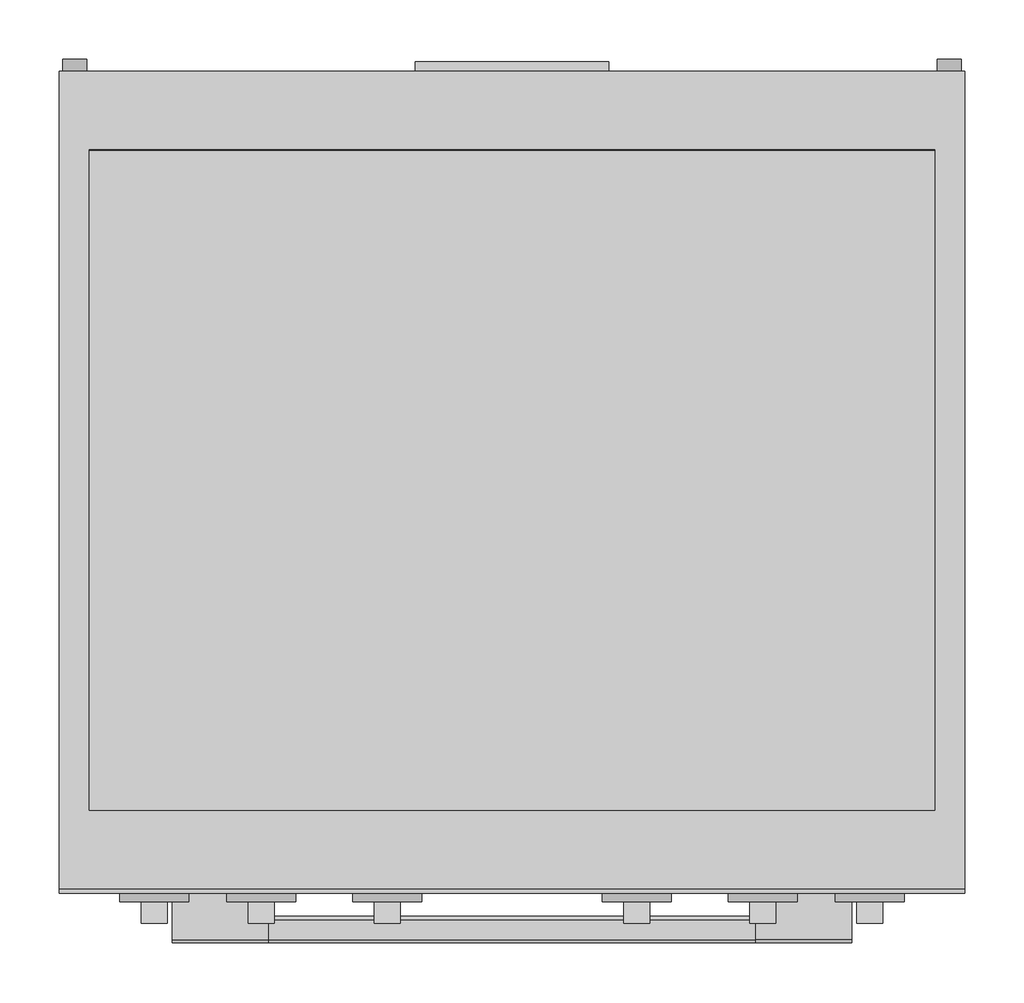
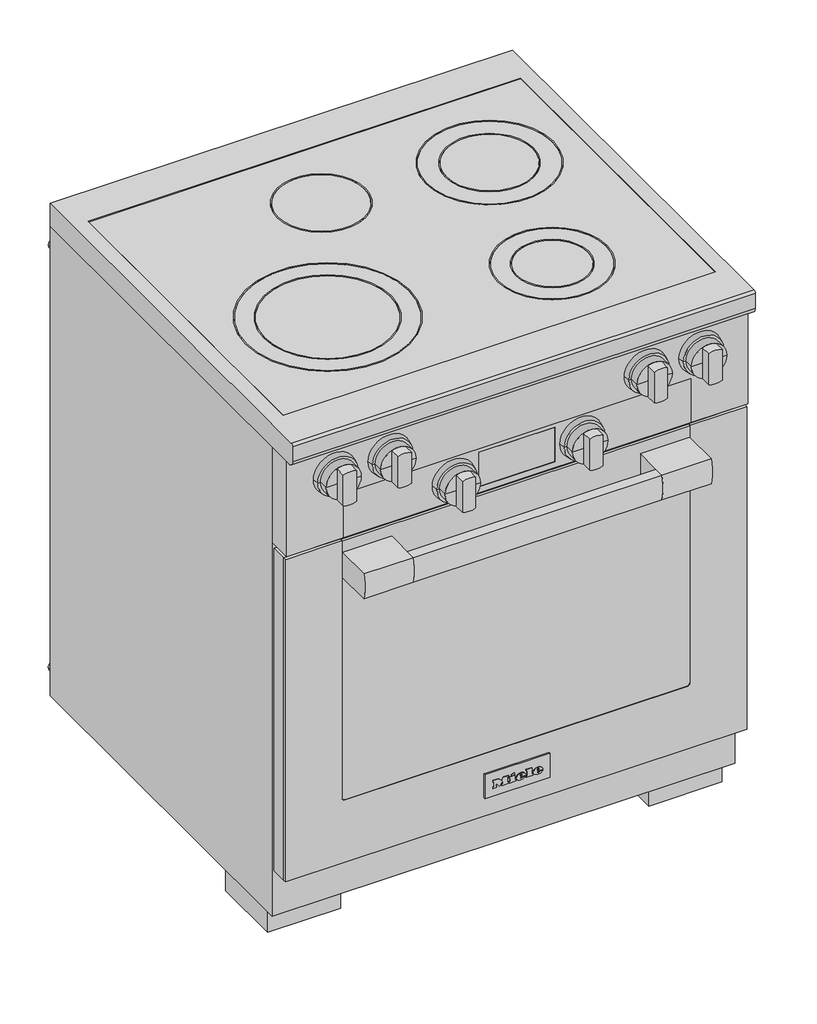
# Not in any storey: 1 proxy.
"""IFC4 building model written with IfcOpenShell, lengths in millimetres."""

from ifc_helpers import new_model, si_unit, origin, place, context, project, spatial, transform, mapped, element, save
from components import specialty_equipment_bfcdb2d1, specialty_equipment_dd086f72

model = new_model("IFC4")

# Units and contexts
model_context = context("Model", 3, world=origin())
ifc_project = project(units=[si_unit("LENGTHUNIT", "METRE", prefix="MILLI")], contexts=[model_context])

# Site, building
site = spatial("IfcSite", under=ifc_project)
building = spatial("IfcBuilding", under=site)

# Proxy
placement = place(None, origin())
specialty_equipment_shape = specialty_equipment_bfcdb2d1(model_context)
specialty_equipment_2_shape = specialty_equipment_dd086f72(model_context)
element("IfcBuildingElementProxy", 1, Name="11793360_USA_HR1421-3_EDST-CLST : 25142181_USA_11793360_HR1421-3_EDST-CLST", ObjectType="11793360_USA_HR1421-3_EDST-CLST : 25142181_USA_11793360_HR1421-3_EDST-CLST", at=placement, inside=building, context=model_context, shape_type="MappedRepresentation", body=[
    mapped(specialty_equipment_shape, transform((0.0, 0.0, 0.0), x_axis=(1.0, 0.0, 0.0), y_axis=(0.0, 1.0, 0.0), z_axis=(0.0, 0.0, 1.0))),
    mapped(specialty_equipment_2_shape, transform((0.0, 0.0, 0.0), x_axis=(1.0, 0.0, 0.0), y_axis=(0.0, 1.0, 0.0), z_axis=(0.0, 0.0, 1.0))),
])

save(model, "model.ifc")
